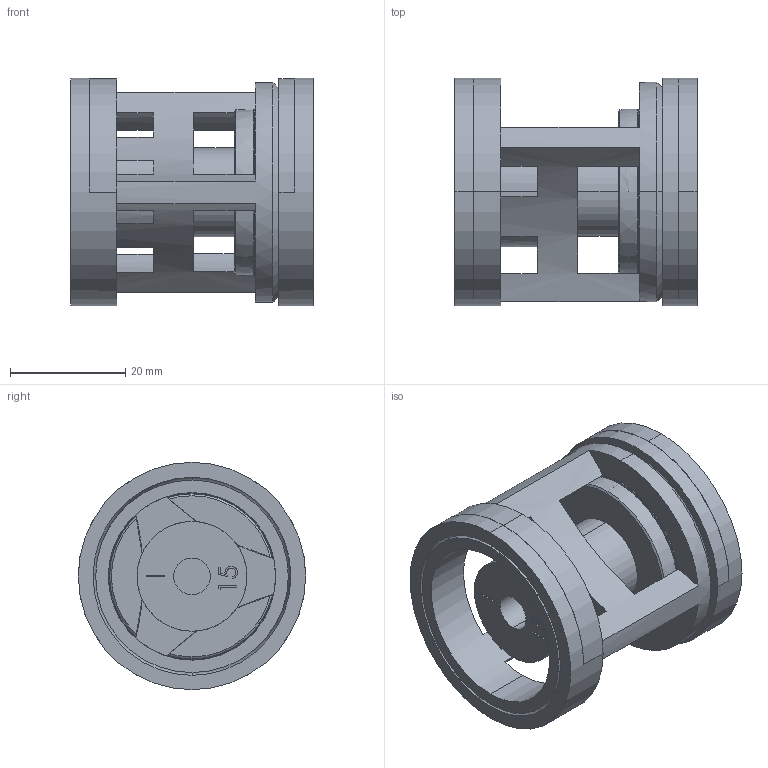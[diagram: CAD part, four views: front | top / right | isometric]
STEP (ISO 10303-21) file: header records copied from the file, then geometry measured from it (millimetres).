
FILE_DESCRIPTION (( 'STEP AP214' ), '1' );
FILE_NAME ('IGS-A-20-N015.STEP', '2025-03-05T19:20:16', ( '' ), ( '' ), 'SwSTEP 2.0', 'SolidWorks 2023', '' );
FILE_SCHEMA (( 'AUTOMOTIVE_DESIGN' ));
Length unit declared in the file: inch
Products named in the file (1): IGS-A-20-N015
Bounding box: 41.99 x 39.45 x 39.45 mm (x, y, z)
Volume: 21146.7 mm3; surface area: 12640.1 mm2
Topology: 1 solids, 1 shells, 119 faces, 334 edges, 217 vertices
Faces by surface type: plane 45, cylinder 39, torus 12, bspline 11, cone 10, sphere 2
Entity records: 5123 total; most frequent: CARTESIAN_POINT 2014, DIRECTION 663, ORIENTED_EDGE 658, EDGE_CURVE 329, AXIS2_PLACEMENT_3D 268, VERTEX_POINT 214, CIRCLE 159, EDGE_LOOP 135
